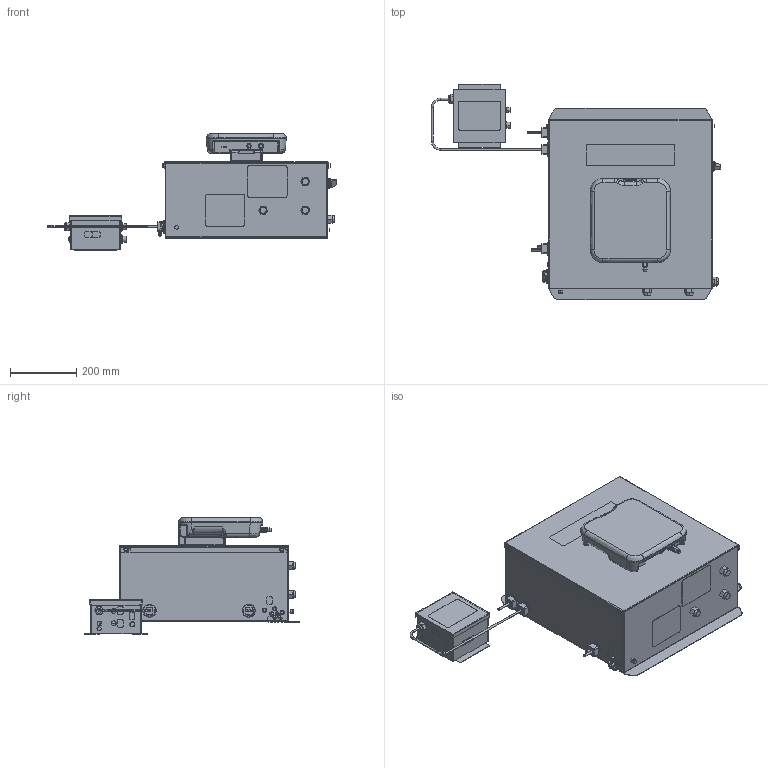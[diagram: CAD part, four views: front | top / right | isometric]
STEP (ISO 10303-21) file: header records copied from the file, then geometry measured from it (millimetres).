
FILE_DESCRIPTION((''),'2;1');
FILE_NAME('MC0502-EN-G_PRT','2023-11-07T14:41:07',('qtmwp1'),(''),'CREO PARAMETRIC BY PTC INC, 2021072','CREO PARAMETRIC BY PTC INC, 2021072','');
FILE_SCHEMA(('CONFIG_CONTROL_DESIGN'));
Length unit declared in the file: inch
Products named in the file (1): MC0502-EN-G_PRT
Bounding box: 874.04 x 650.24 x 352.55 mm (x, y, z)
Surface area: 1885479.3 mm2 (no closed solid volume)
Topology: 0 solids, 174 shells, 827 faces, 3238 edges, 2488 vertices
Faces by surface type: plane 394, cylinder 224, cone 93, bspline 80, torus 28, sphere 8
Entity records: 39453 total; most frequent: CARTESIAN_POINT 14845, DIRECTION 4774, ORIENTED_EDGE 4418, EDGE_CURVE 3237, VERTEX_POINT 2488, AXIS2_PLACEMENT_3D 1673, VECTOR 1428, LINE 1428
